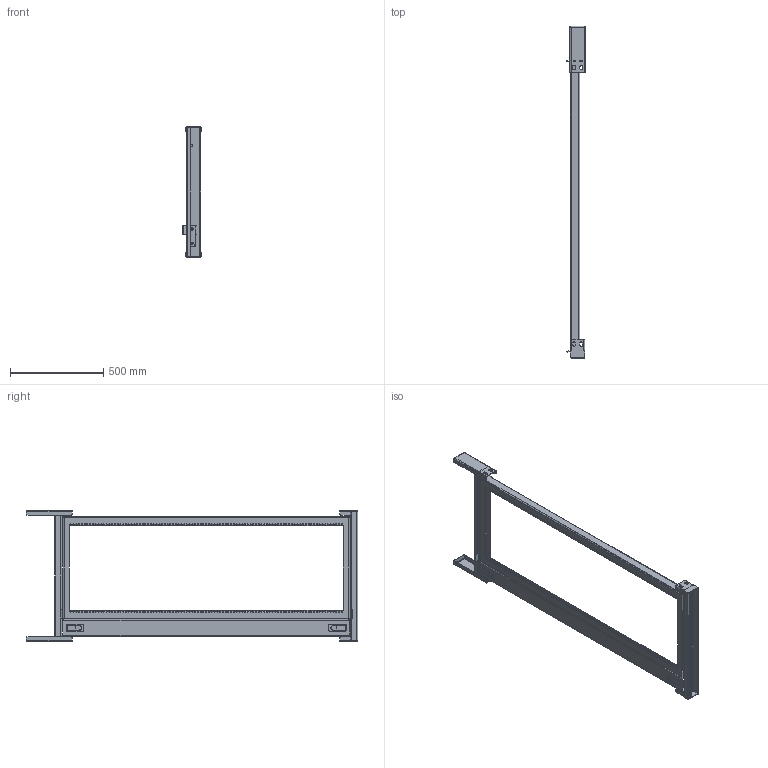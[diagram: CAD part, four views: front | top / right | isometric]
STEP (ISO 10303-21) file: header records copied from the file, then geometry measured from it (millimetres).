
FILE_DESCRIPTION((''),'2;1');
FILE_NAME('MODEL-145_ASM','2022-02-01T10:22:03',('mikek'),('SAGINAW CONTROL & ENGINEERING'),'CREO PARAMETRIC BY PTC INC, 2017260','CREO PARAMETRIC BY PTC INC, 2017260','');
FILE_SCHEMA(('AUTOMOTIVE_DESIGN { 1 0 10303 214 1 1 1 1 }'));
Length unit declared in the file: inch
Products named in the file (20): MODEL-145-TP-CHNL; MODEL-145-RACK; MODEL-145-SPCR-PLT; 100063; 100897; 103947_1-125; 103947_0-563; 127474; 100064; 127474_ASM; 105457; MODEL-145-BTM-CHNL; MODEL-145-BTM-MTG-BRKT; 127476; 127476_ASM; MODEL-145-TOP-MTG-BRKT; 102050; 102024; 100877; MODEL-145_ASM
Assembly tree (44 placements, depth 3):
  MODEL-145_ASM
    MODEL-145-TP-CHNL
    MODEL-145-RACK
    MODEL-145-SPCR-PLT
    100063  x9
    100897  x9
    103947_1-125
    103947_0-563
    127474_ASM
      127474
      100064  x2
    105457  x2
    MODEL-145-BTM-CHNL
    MODEL-145-BTM-MTG-BRKT  x2
    127476_ASM
      127476
      100064  x2
    MODEL-145-TOP-MTG-BRKT  x2
    102050
    102024
    100877  x4
Bounding box: 99.56 x 1777.89 x 700.09 mm (x, y, z)
Volume: 3181110.5 mm3; surface area: 2059562.3 mm2
Topology: 44 solids, 44 shells, 2499 faces, 6770 edges, 4382 vertices
Faces by surface type: plane 1241, cylinder 774, bspline 148, cone 136, torus 116, sphere 84
Entity records: 48375 total; most frequent: CARTESIAN_POINT 10438, DIRECTION 7029, ORIENTED_EDGE 6502, EDGE_CURVE 3251, AXIS2_PLACEMENT_3D 2739, VERTEX_POINT 2092, EDGE_LOOP 1695, VECTOR 1551
